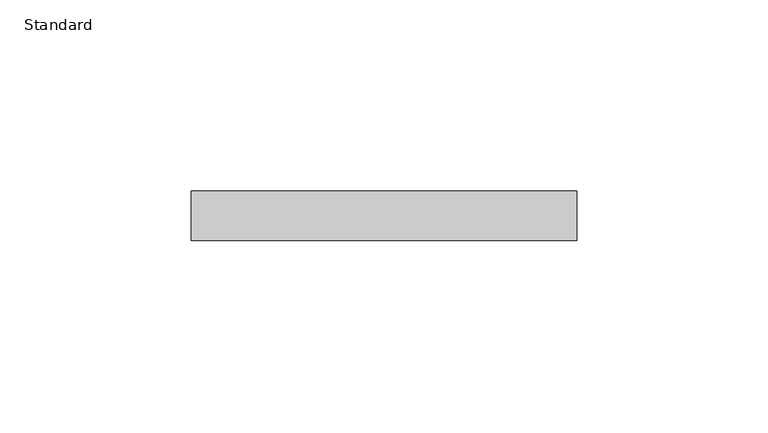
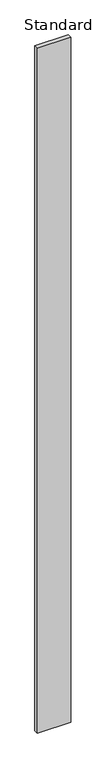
"""IFC4 building model written with IfcOpenShell, lengths in millimetres: furniture geometry, X_Partition-Compact Laminate-Duracube-Rectangular : Standard."""

from ifc_helpers import new_model, si_unit, frame, origin, place, context, project, spatial, polyline, outline, extrude, source, transform, mapped, element, save


def standard_39e46a34(model_context):
    return source(origin(), model_context, "Body", "SweptSolid", [
        extrude(outline(polyline([(95.2003264, 0.0), (95.2003264, -13.0), (-5.7996736, -13.0), (-5.7996736, 0.0), (95.2003264, 0.0)])), frame((0.0, 0.0, 200.0), z_axis=(0.0, 0.0, 1.0), x_axis=(1.0, 0.0, 0.0)), (0.0, 0.0, 1.0), 2198.0),
    ])


if __name__ == "__main__":
    model = new_model("IFC4")
    model_context = context("Model", 3, world=origin())
    ifc_project = project(units=[si_unit("LENGTHUNIT", "METRE", prefix="MILLI")], contexts=[model_context])
    site = spatial("IfcSite", under=ifc_project)
    building = spatial("IfcBuilding", under=site)
    placement = place(None, origin())
    standard_shape = standard_39e46a34(model_context)
    element("IfcFurniture", 1, ObjectType="X_Partition-Compact Laminate-Duracube-Rectangular : Standard", at=placement, inside=building, context=model_context, shape_type="MappedRepresentation", body=[
        mapped(standard_shape, transform((0.0, 0.0, 0.0), x_axis=(1.0, 0.0, 0.0), y_axis=(0.0, 1.0, 0.0), z_axis=(0.0, 0.0, 1.0))),
    ])
    save(model, "model.ifc")
